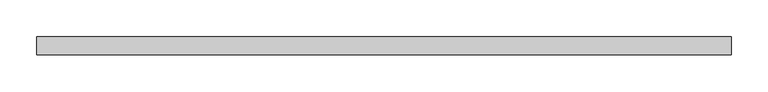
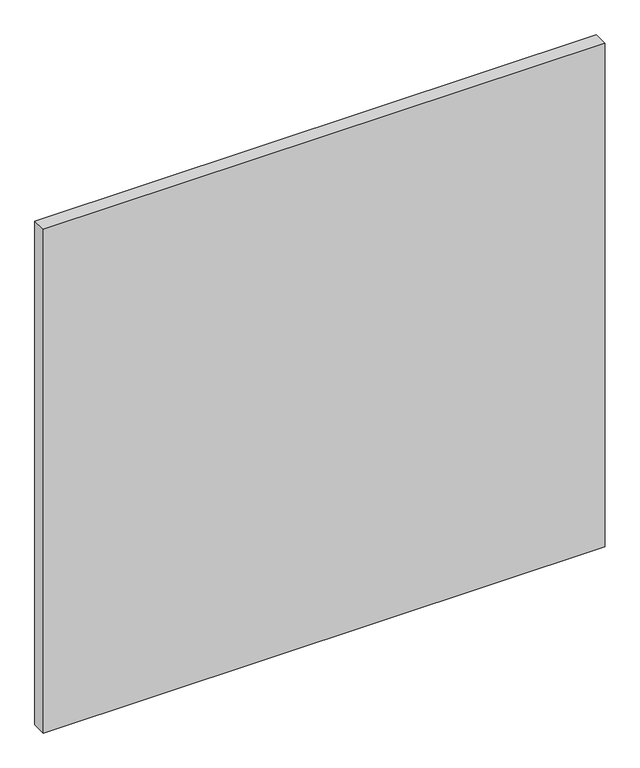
"""IFC4 building model written with IfcOpenShell, lengths in millimetres: plate geometry, Системная панель : ADSK_Cтеклопакет_25."""

from ifc_helpers import new_model, si_unit, origin, origin_with_axes, place, context, project, spatial, polyline, outline, extrude, source, transform, mapped, element, save


def plate_fdef5a31(model_context):
    return source(origin(), model_context, "Body", "SweptSolid", [
        extrude(outline(polyline([(475.0, -12.5), (-475.0, -12.5), (-475.0, 12.5), (475.0, 12.5), (475.0, -12.5)])), origin_with_axes(), (0.0, 0.0, 1.0), 900.0),
    ])


if __name__ == "__main__":
    model = new_model("IFC4")
    model_context = context("Model", 3, world=origin())
    ifc_project = project(units=[si_unit("LENGTHUNIT", "METRE", prefix="MILLI")], contexts=[model_context])
    site = spatial("IfcSite", under=ifc_project)
    building = spatial("IfcBuilding", under=site)
    placement = place(None, origin())
    plate_shape = plate_fdef5a31(model_context)
    element("IfcPlate", 1, ObjectType="Системная панель : ADSK_Cтеклопакет_25", at=placement, inside=building, context=model_context, shape_type="MappedRepresentation", body=[
        mapped(plate_shape, transform((0.0, 0.0, 0.0), x_axis=(1.0, 0.0, 0.0), y_axis=(0.0, 1.0, 0.0), z_axis=(0.0, 0.0, 1.0))),
    ])
    save(model, "model.ifc")
